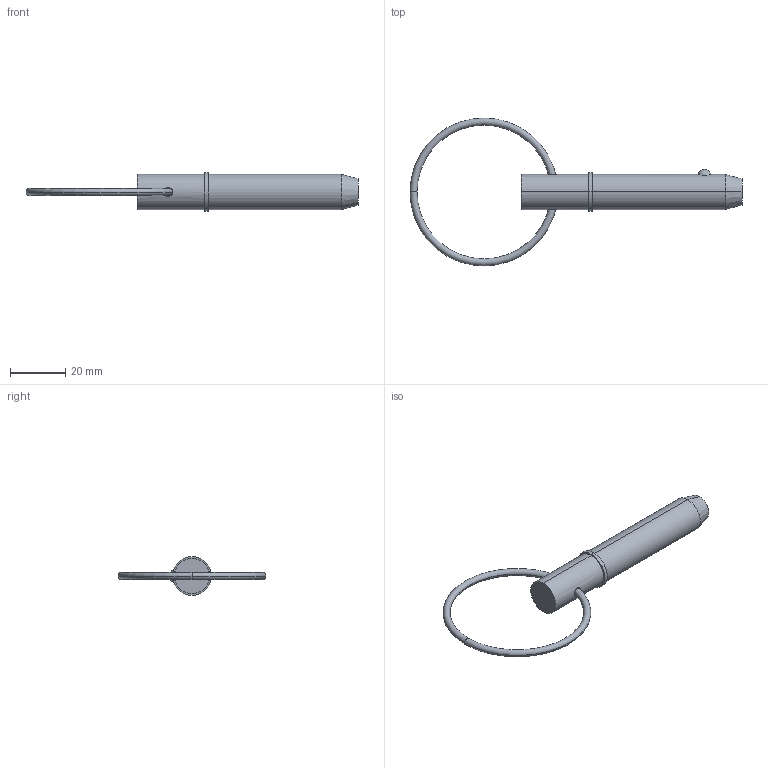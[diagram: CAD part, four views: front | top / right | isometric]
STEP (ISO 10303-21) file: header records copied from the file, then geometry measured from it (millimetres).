
FILE_DESCRIPTION (( 'STEP AP203' ), '1' );
FILE_NAME ('33014.W5015.step', '2024-11-04T08:29:56', ( '' ), ( '' ), 'SwSTEP 2.0', 'SolidWorks 2019', '' );
FILE_SCHEMA (( 'CONFIG_CONTROL_DESIGN' ));
Length unit declared in the file: millimetre
Products named in the file (3): Part1_33014.W5015; Part2_33014.W5015; 33014.W5015
Assembly tree (2 placements, depth 2):
  33014.W5015
    Part1_33014.W5015
    Part2_33014.W5015
Bounding box: 119.73 x 53.34 x 13.97 mm (x, y, z)
Volume: 10683.4 mm3; surface area: 4808.5 mm2
Topology: 2 solids, 2 shells, 22 faces, 43 edges, 26 vertices
Faces by surface type: torus 8, cylinder 6, plane 4, sphere 2, cone 2
Entity records: 1039 total; most frequent: CARTESIAN_POINT 262, DIRECTION 120, ORIENTED_EDGE 86, AXIS2_PLACEMENT_3D 56, EDGE_CURVE 43, CIRCLE 29, EDGE_LOOP 27, VERTEX_POINT 26
